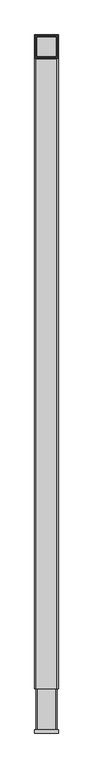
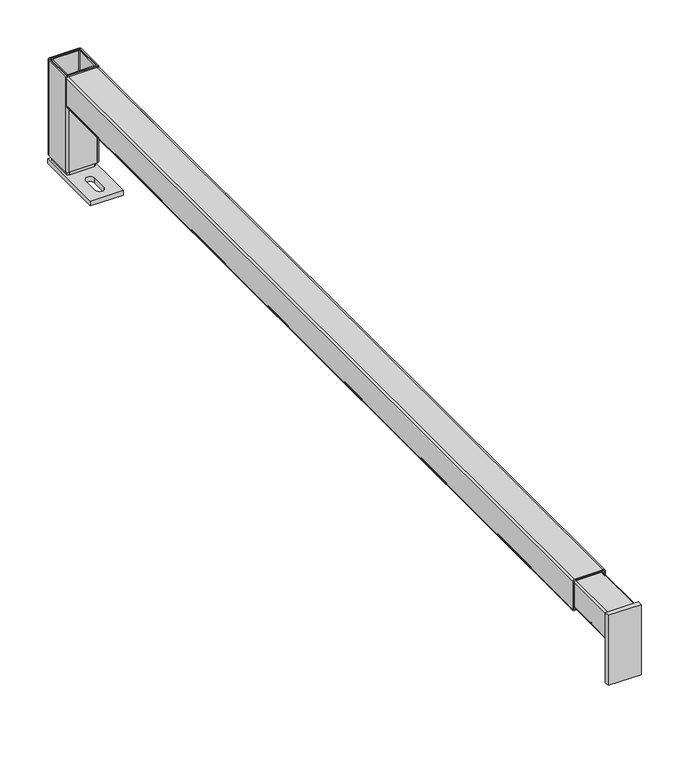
"""IFC4 building model written with IfcOpenShell, lengths in millimetres: flow terminal geometry, WISA tussen_eindprofiel : WISA tussen_eindprofiel."""

from ifc_helpers import new_model, si_unit, point, frame, frame_2d, origin, origin_with_axes, place, context, project, spatial, polyline, circle_curve, trimmed, segment, composite_curve, outline, extrude, source, transform, mapped, element, save


def flow_terminal_1b5033f7(model_context):
    return source(origin(), model_context, "Body", "SweptSolid", [
        extrude(outline(polyline([(20.0000011, 6.0), (20.0000011, 0.0), (-20.0000011, 0.0), (-20.0000011, 6.0), (20.0000011, 6.0)])), frame((0.0, 0.0, 45.0000013), z_axis=(0.0, 0.0, 1.0), x_axis=(1.0, 0.0, 0.0)), (0.0, 0.0, 1.0), 89.9999987),
        extrude(outline(composite_curve([segment(polyline([(132.4999974, 15.4999589), (132.4999974, -15.4999589)]), True, "CONTINUOUS"), segment(trimmed(circle_curve(frame_2d((130.4999571, -15.4999589)), 2.0000403), [point((132.4999974, -15.4999589))], [point((130.4999571, -17.4999992))], False, "CARTESIAN"), True, "CONTINUOUS"), segment(polyline([(130.4999571, -17.4999992), (99.5000392, -17.4999992)]), True, "CONTINUOUS"), segment(trimmed(circle_curve(frame_2d((99.5000392, -15.4999589)), 2.0000403), [point((99.5000392, -17.4999992))], [point((97.4999989, -15.4999589))], False, "CARTESIAN"), True, "CONTINUOUS"), segment(polyline([(97.4999989, -15.4999589), (97.4999989, 15.4999589)]), True, "CONTINUOUS"), segment(trimmed(circle_curve(frame_2d((99.5000392, 15.4999589)), 2.0000403), [point((97.4999989, 15.4999589))], [point((99.5000392, 17.4999992))], False, "CARTESIAN"), True, "CONTINUOUS"), segment(polyline([(99.5000392, 17.4999992), (130.4999571, 17.4999992)]), True, "CONTINUOUS"), segment(trimmed(circle_curve(frame_2d((130.4999571, 15.4999589)), 2.0000403), [point((130.4999571, 17.4999992))], [point((132.4999974, 15.4999589))], False, "CARTESIAN"), True, "CONTINUOUS")], self_intersect=False), holes=[composite_curve([segment(polyline([(130.9999974, -15.4999589), (130.9999974, 15.4999589)]), True, "CONTINUOUS"), segment(trimmed(circle_curve(frame_2d((130.4999571, 15.4999589)), 0.5000403), [point((130.9999974, 15.4999589))], [point((130.4999571, 15.9999992))], True, "CARTESIAN"), True, "CONTINUOUS"), segment(polyline([(130.4999571, 15.9999992), (99.5000392, 15.9999992)]), True, "CONTINUOUS"), segment(trimmed(circle_curve(frame_2d((99.5000392, 15.4999589)), 0.5000403), [point((99.5000392, 15.9999992))], [point((98.9999989, 15.4999589))], True, "CARTESIAN"), True, "CONTINUOUS"), segment(polyline([(98.9999989, 15.4999589), (98.9999989, -15.4999589)]), True, "CONTINUOUS"), segment(trimmed(circle_curve(frame_2d((99.5000392, -15.4999589)), 0.5000403), [point((98.9999989, -15.4999589))], [point((99.5000392, -15.9999992))], True, "CARTESIAN"), True, "CONTINUOUS"), segment(polyline([(99.5000392, -15.9999992), (130.4999571, -15.9999992)]), True, "CONTINUOUS"), segment(trimmed(circle_curve(frame_2d((130.4999571, -15.4999589)), 0.5000403), [point((130.4999571, -15.9999992))], [point((130.9999974, -15.4999589))], True, "CARTESIAN"), True, "CONTINUOUS")], self_intersect=False)]), frame((0.0, 6.0, 0.0), z_axis=(0.0, 1.0, 0.0), x_axis=(0.0, 0.0, 1.0)), (0.0, 0.0, 1.0), 69.0000197),
        extrude(outline(polyline([(20.0000011, 1180.0), (20.0000011, 1090.0000429), (-20.0000011, 1090.0000429), (-20.0000011, 1180.0), (20.0000011, 1180.0)]), holes=[composite_curve([segment(trimmed(circle_curve(frame_2d((-1.1e-06, 1104.9999994)), 5.0000003), [point((-5.0000014, 1104.9999994))], [point((4.9999991, 1104.9999994))], True, "CARTESIAN"), True, "CONTINUOUS"), segment(polyline([(4.9999991, 1104.9999994), (4.9999991, 1125.0000141)]), True, "CONTINUOUS"), segment(trimmed(circle_curve(frame_2d((-1.1e-06, 1125.0000141)), 5.0000003), [point((4.9999991, 1125.0000141))], [point((-5.0000014, 1125.0000141))], True, "CARTESIAN"), True, "CONTINUOUS"), segment(polyline([(-5.0000014, 1125.0000141), (-5.0000014, 1104.9999994)]), True, "CONTINUOUS")], self_intersect=False)]), origin_with_axes(), (0.0, 0.0, 1.0), 6.0),
        extrude(outline(composite_curve([segment(trimmed(circle_curve(frame_2d((14.9999724, 1174.9999804)), 2.5000268), [point((14.9999724, 1177.5000072))], [point((17.4999992, 1174.9999804))], False, "CARTESIAN"), True, "CONTINUOUS"), segment(polyline([(17.4999992, 1174.9999804), (17.4999992, 1145.0000629)]), True, "CONTINUOUS"), segment(trimmed(circle_curve(frame_2d((14.9999724, 1145.0000629)), 2.5000268), [point((17.4999992, 1145.0000629))], [point((14.9999724, 1142.500036))], False, "CARTESIAN"), True, "CONTINUOUS"), segment(polyline([(14.9999724, 1142.500036), (-14.9999724, 1142.500036)]), True, "CONTINUOUS"), segment(trimmed(circle_curve(frame_2d((-14.9999724, 1145.0000629)), 2.5000268), [point((-14.9999724, 1142.500036))], [point((-17.4999992, 1145.0000629))], False, "CARTESIAN"), True, "CONTINUOUS"), segment(polyline([(-17.4999992, 1145.0000629), (-17.4999992, 1174.9999804)]), True, "CONTINUOUS"), segment(trimmed(circle_curve(frame_2d((-14.9999724, 1174.9999804)), 2.5000268), [point((-17.4999992, 1174.9999804))], [point((-14.9999724, 1177.5000072))], False, "CARTESIAN"), True, "CONTINUOUS"), segment(polyline([(-14.9999724, 1177.5000072), (14.9999724, 1177.5000072)]), True, "CONTINUOUS")], self_intersect=False), holes=[composite_curve([segment(trimmed(circle_curve(frame_2d((-14.9999724, 1174.9999804)), 1.0000268), [point((-14.9999724, 1176.0000072))], [point((-15.9999992, 1174.9999804))], True, "CARTESIAN"), True, "CONTINUOUS"), segment(polyline([(-15.9999992, 1174.9999804), (-15.9999992, 1145.0000629)]), True, "CONTINUOUS"), segment(trimmed(circle_curve(frame_2d((-14.9999724, 1145.0000629)), 1.0000268), [point((-15.9999992, 1145.0000629))], [point((-14.9999724, 1144.000036))], True, "CARTESIAN"), True, "CONTINUOUS"), segment(polyline([(-14.9999724, 1144.000036), (14.9999724, 1144.000036)]), True, "CONTINUOUS"), segment(trimmed(circle_curve(frame_2d((14.9999724, 1145.0000629)), 1.0000268), [point((14.9999724, 1144.000036))], [point((15.9999992, 1145.0000629))], True, "CARTESIAN"), True, "CONTINUOUS"), segment(polyline([(15.9999992, 1145.0000629), (15.9999992, 1174.9999804)]), True, "CONTINUOUS"), segment(trimmed(circle_curve(frame_2d((14.9999724, 1174.9999804)), 1.0000268), [point((15.9999992, 1174.9999804))], [point((14.9999724, 1176.0000072))], True, "CARTESIAN"), True, "CONTINUOUS"), segment(polyline([(14.9999724, 1176.0000072), (-14.9999724, 1176.0000072)]), True, "CONTINUOUS")], self_intersect=False)]), frame((0.0, 0.0, 6.0), z_axis=(0.0, 0.0, 1.0), x_axis=(1.0, 0.0, 0.0)), (0.0, 0.0, 1.0), 129.0),
        extrude(outline(composite_curve([segment(trimmed(circle_curve(frame_2d((17.5000083, 1177.5000072)), 2.4999928), [point((17.5000083, 1180.0))], [point((20.0000011, 1177.5000072))], False, "CARTESIAN"), True, "CONTINUOUS"), segment(polyline([(20.0000011, 1177.5000072), (20.0000011, 1142.500036)]), True, "CONTINUOUS"), segment(trimmed(circle_curve(frame_2d((17.5000083, 1142.500036)), 2.4999928), [point((20.0000011, 1142.500036))], [point((17.5000083, 1140.0000433))], False, "CARTESIAN"), True, "CONTINUOUS"), segment(polyline([(17.5000083, 1140.0000433), (-17.5000083, 1140.0000433)]), True, "CONTINUOUS"), segment(trimmed(circle_curve(frame_2d((-17.5000083, 1142.500036)), 2.4999928), [point((-17.5000083, 1140.0000433))], [point((-20.0000011, 1142.500036))], False, "CARTESIAN"), True, "CONTINUOUS"), segment(polyline([(-20.0000011, 1142.500036), (-20.0000011, 1177.5000072)]), True, "CONTINUOUS"), segment(trimmed(circle_curve(frame_2d((-17.5000083, 1177.5000072)), 2.4999928), [point((-20.0000011, 1177.5000072))], [point((-17.5000083, 1180.0))], False, "CARTESIAN"), True, "CONTINUOUS"), segment(polyline([(-17.5000083, 1180.0), (17.5000083, 1180.0)]), True, "CONTINUOUS")], self_intersect=False), holes=[composite_curve([segment(polyline([(-18.5000011, 1177.5000072), (-18.5000011, 1142.500036)]), True, "CONTINUOUS"), segment(trimmed(circle_curve(frame_2d((-17.5000083, 1142.500036)), 0.9999928), [point((-18.5000011, 1142.500036))], [point((-17.5000083, 1141.5000433))], True, "CARTESIAN"), True, "CONTINUOUS"), segment(polyline([(-17.5000083, 1141.5000433), (17.5000083, 1141.5000433)]), True, "CONTINUOUS"), segment(trimmed(circle_curve(frame_2d((17.5000083, 1142.500036)), 0.9999928), [point((17.5000083, 1141.5000433))], [point((18.5000011, 1142.500036))], True, "CARTESIAN"), True, "CONTINUOUS"), segment(polyline([(18.5000011, 1142.500036), (18.5000011, 1177.5000072)]), True, "CONTINUOUS"), segment(trimmed(circle_curve(frame_2d((17.5000083, 1177.5000072)), 0.9999928), [point((18.5000011, 1177.5000072))], [point((17.5000083, 1178.5))], True, "CARTESIAN"), True, "CONTINUOUS"), segment(polyline([(17.5000083, 1178.5), (-17.5000083, 1178.5)]), True, "CONTINUOUS"), segment(trimmed(circle_curve(frame_2d((-17.5000083, 1177.5000072)), 0.9999928), [point((-17.5000083, 1178.5))], [point((-18.5000011, 1177.5000072))], True, "CARTESIAN"), True, "CONTINUOUS")], self_intersect=False)]), frame((0.0, 0.0, 12.0), z_axis=(0.0, 0.0, 1.0), x_axis=(1.0, 0.0, 0.0)), (0.0, 0.0, 1.0), 123.0),
        extrude(outline(composite_curve([segment(polyline([(132.4999982, -20.0000011), (97.5380053, -20.0000011)]), True, "CONTINUOUS"), segment(trimmed(circle_curve(frame_2d((97.5380053, -17.4999992)), 2.5000018), [point((97.5380053, -20.0000011))], [point((95.0380035, -17.4999992))], False, "CARTESIAN"), True, "CONTINUOUS"), segment(polyline([(95.0380035, -17.4999992), (95.0380035, 17.4999992)]), True, "CONTINUOUS"), segment(trimmed(circle_curve(frame_2d((97.5380053, 17.4999992)), 2.5000018), [point((95.0380035, 17.4999992))], [point((97.5380053, 20.0000011))], False, "CARTESIAN"), True, "CONTINUOUS"), segment(polyline([(97.5380053, 20.0000011), (132.4999982, 20.0000011)]), True, "CONTINUOUS"), segment(trimmed(circle_curve(frame_2d((132.4999982, 17.4999992)), 2.5000018), [point((132.4999982, 20.0000011))], [point((135.0, 17.4999992))], False, "CARTESIAN"), True, "CONTINUOUS"), segment(polyline([(135.0, 17.4999992), (135.0, -17.4999992)]), True, "CONTINUOUS"), segment(trimmed(circle_curve(frame_2d((132.4999982, -17.4999992)), 2.5000018), [point((135.0, -17.4999992))], [point((132.4999982, -20.0000011))], False, "CARTESIAN"), True, "CONTINUOUS")], self_intersect=False), holes=[composite_curve([segment(polyline([(133.5, -17.4999992), (133.5, 17.4999992)]), True, "CONTINUOUS"), segment(trimmed(circle_curve(frame_2d((132.4999982, 17.4999992)), 1.0000018), [point((133.5, 17.4999992))], [point((132.4999982, 18.5000011))], True, "CARTESIAN"), True, "CONTINUOUS"), segment(polyline([(132.4999982, 18.5000011), (97.5380053, 18.5000011)]), True, "CONTINUOUS"), segment(trimmed(circle_curve(frame_2d((97.5380053, 17.4999992)), 1.0000018), [point((97.5380053, 18.5000011))], [point((96.5380035, 17.4999992))], True, "CARTESIAN"), True, "CONTINUOUS"), segment(polyline([(96.5380035, 17.4999992), (96.5380035, -17.4999992)]), True, "CONTINUOUS"), segment(trimmed(circle_curve(frame_2d((97.5380053, -17.4999992)), 1.0000018), [point((96.5380035, -17.4999992))], [point((97.5380053, -18.5000011))], True, "CARTESIAN"), True, "CONTINUOUS"), segment(polyline([(97.5380053, -18.5000011), (132.4999982, -18.5000011)]), True, "CONTINUOUS"), segment(trimmed(circle_curve(frame_2d((132.4999982, -17.4999992)), 1.0000018), [point((132.4999982, -18.5000011))], [point((133.5, -17.4999992))], True, "CARTESIAN"), True, "CONTINUOUS")], self_intersect=False)]), frame((0.0, 75.0000197, 0.0), z_axis=(0.0, 1.0, 0.0), x_axis=(0.0, 0.0, 1.0)), (0.0, 0.0, 1.0), 1065.0000236),
    ])


if __name__ == "__main__":
    model = new_model("IFC4")
    model_context = context("Model", 3, world=origin())
    ifc_project = project(units=[si_unit("LENGTHUNIT", "METRE", prefix="MILLI")], contexts=[model_context])
    site = spatial("IfcSite", under=ifc_project)
    building = spatial("IfcBuilding", under=site)
    placement = place(None, origin())
    flow_terminal_shape = flow_terminal_1b5033f7(model_context)
    element("IfcFlowTerminal", 1, ObjectType="WISA tussen_eindprofiel : WISA tussen_eindprofiel", at=placement, inside=building, context=model_context, shape_type="MappedRepresentation", body=[
        mapped(flow_terminal_shape, transform((0.0, 0.0, 0.0), x_axis=(1.0, 0.0, 0.0), y_axis=(0.0, 1.0, 0.0), z_axis=(0.0, 0.0, 1.0))),
    ])
    save(model, "model.ifc")
